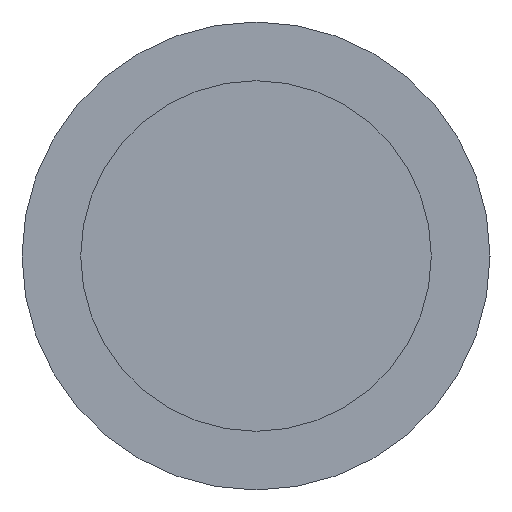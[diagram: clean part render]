
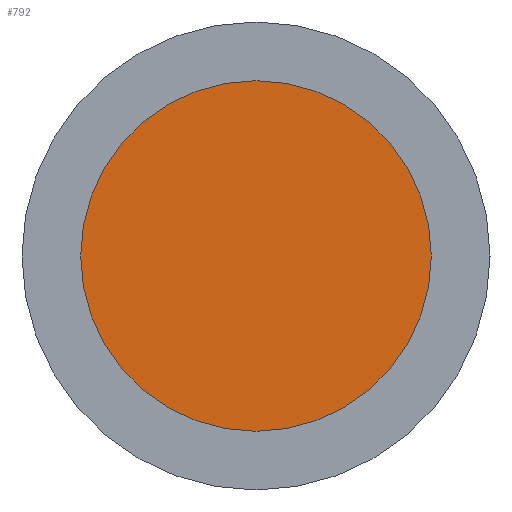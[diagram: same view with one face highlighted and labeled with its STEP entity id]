
A CAD part, left-side view. The second image highlights one B-rep face of the part: STEP entity #792.
In plain terms, the highlighted planar face has unit normal (-1, 0, 0).
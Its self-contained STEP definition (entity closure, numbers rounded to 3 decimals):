
#792 = ADVANCED_FACE( '', ( #1983 ), #1984, .T. );
#1983 = FACE_OUTER_BOUND( '', #3612, .T. );
#1984 = PLANE( '', #3613 );
#3612 = EDGE_LOOP( '', ( #5597 ) );
#3613 = AXIS2_PLACEMENT_3D( '', #5598, #5599, #5600 );
#5597 = ORIENTED_EDGE( '', *, *, #7411, .T. );
#5598 = CARTESIAN_POINT( '', ( -122.5, 0., 20.6 ) );
#5599 = DIRECTION( '', ( -1., 0., 0. ) );
#5600 = DIRECTION( '', ( 0., 0., 1. ) );
#7411 = EDGE_CURVE( '', #8507, #8507, #8508, .T. );
#8507 = VERTEX_POINT( '', #9723 );
#8508 = CIRCLE( '', #9724, 20.6 );
#9723 = CARTESIAN_POINT( '', ( -122.5, 0., 20.6 ) );
#9724 = AXIS2_PLACEMENT_3D( '', #11042, #11043, #11044 );
#11042 = CARTESIAN_POINT( '', ( -122.5, 0., 0. ) );
#11043 = DIRECTION( '', ( -1., 0., 0. ) );
#11044 = DIRECTION( '', ( 0., 0., 1. ) );
